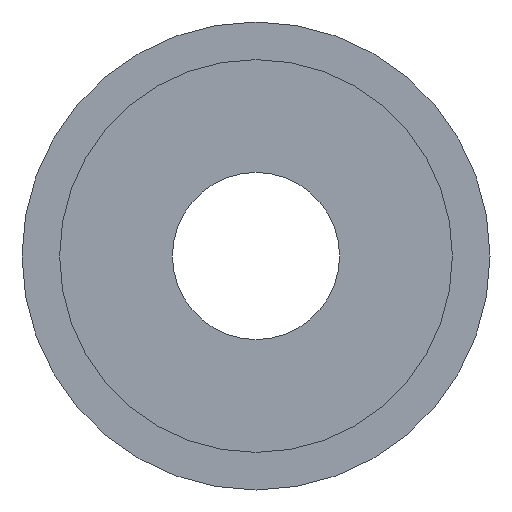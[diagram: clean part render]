
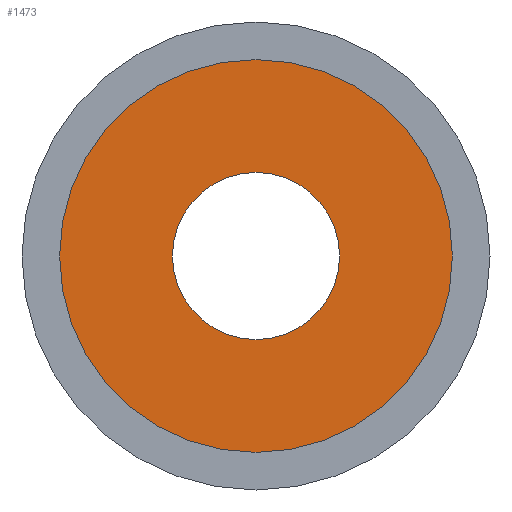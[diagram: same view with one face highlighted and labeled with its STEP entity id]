
A CAD part, front view. The second image highlights one B-rep face of the part: STEP entity #1473.
In plain terms, the highlighted planar face has unit normal (0, -1, 0).
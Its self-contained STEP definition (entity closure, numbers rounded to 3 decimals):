
#123 = FACE_OUTER_BOUND ( 'NONE', #810, .T. ) ;
#168 = VERTEX_POINT ( 'NONE', #1505 ) ;
#211 = EDGE_CURVE ( 'NONE', #2257, #168, #2181, .T. ) ;
#217 = CARTESIAN_POINT ( 'NONE',  ( 0., -14., 0. ) ) ;
#262 = AXIS2_PLACEMENT_3D ( 'NONE', #689, #533, #1082 ) ;
#380 = DIRECTION ( 'NONE',  ( 0., -1., 0. ) ) ;
#444 = EDGE_CURVE ( 'NONE', #519, #2012, #2370, .T. ) ;
#490 = DIRECTION ( 'NONE',  ( 0., 0., 1. ) ) ;
#519 = VERTEX_POINT ( 'NONE', #883 ) ;
#533 = DIRECTION ( 'NONE',  ( 0., -1., 0. ) ) ;
#650 = CARTESIAN_POINT ( 'NONE',  ( 0., -14., 23.5 ) ) ;
#655 = CIRCLE ( 'NONE', #262, 10. ) ;
#689 = CARTESIAN_POINT ( 'NONE',  ( 0., -14., 0. ) ) ;
#714 = CARTESIAN_POINT ( 'NONE',  ( 0., -14., 10. ) ) ;
#748 = DIRECTION ( 'NONE',  ( 0., 0., -1. ) ) ;
#769 = EDGE_CURVE ( 'NONE', #2012, #519, #2065, .T. ) ;
#810 = EDGE_LOOP ( 'NONE', ( #1536, #1757 ) ) ;
#837 = DIRECTION ( 'NONE',  ( 0., 1., 0. ) ) ;
#883 = CARTESIAN_POINT ( 'NONE',  ( 0., -14., -23.5 ) ) ;
#901 = AXIS2_PLACEMENT_3D ( 'NONE', #217, #994, #2320 ) ;
#994 = DIRECTION ( 'NONE',  ( 0., -1., 0. ) ) ;
#1036 = DIRECTION ( 'NONE',  ( 0., -1., 0. ) ) ;
#1082 = DIRECTION ( 'NONE',  ( 0., 0., -1. ) ) ;
#1296 = EDGE_LOOP ( 'NONE', ( #1332, #1687 ) ) ;
#1332 = ORIENTED_EDGE ( 'NONE', *, *, #1584, .F. ) ;
#1434 = CARTESIAN_POINT ( 'NONE',  ( 0., -14., 10. ) ) ;
#1473 = ADVANCED_FACE ( 'NONE', ( #2089, #123 ), #1598, .F. ) ;
#1505 = CARTESIAN_POINT ( 'NONE',  ( 0., -14., -10. ) ) ;
#1536 = ORIENTED_EDGE ( 'NONE', *, *, #444, .T. ) ;
#1584 = EDGE_CURVE ( 'NONE', #168, #2257, #655, .T. ) ;
#1598 = PLANE ( 'NONE',  #1772 ) ;
#1609 = AXIS2_PLACEMENT_3D ( 'NONE', #2278, #380, #748 ) ;
#1687 = ORIENTED_EDGE ( 'NONE', *, *, #211, .F. ) ;
#1757 = ORIENTED_EDGE ( 'NONE', *, *, #769, .T. ) ;
#1772 = AXIS2_PLACEMENT_3D ( 'NONE', #1434, #837, #490 ) ;
#2012 = VERTEX_POINT ( 'NONE', #650 ) ;
#2065 = CIRCLE ( 'NONE', #1609, 23.5 ) ;
#2089 = FACE_BOUND ( 'NONE', #1296, .T. ) ;
#2169 = CARTESIAN_POINT ( 'NONE',  ( 0., -14., 0. ) ) ;
#2181 = CIRCLE ( 'NONE', #901, 10. ) ;
#2257 = VERTEX_POINT ( 'NONE', #714 ) ;
#2278 = CARTESIAN_POINT ( 'NONE',  ( 0., -14., 0. ) ) ;
#2283 = AXIS2_PLACEMENT_3D ( 'NONE', #2169, #1036, #2418 ) ;
#2320 = DIRECTION ( 'NONE',  ( 0., 0., -1. ) ) ;
#2370 = CIRCLE ( 'NONE', #2283, 23.5 ) ;
#2418 = DIRECTION ( 'NONE',  ( 0., 0., -1. ) ) ;
